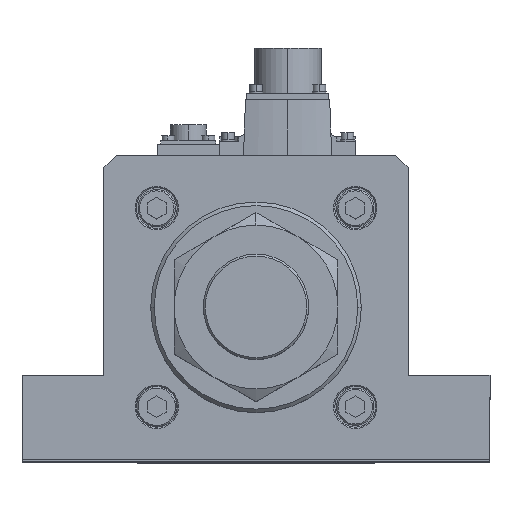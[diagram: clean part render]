
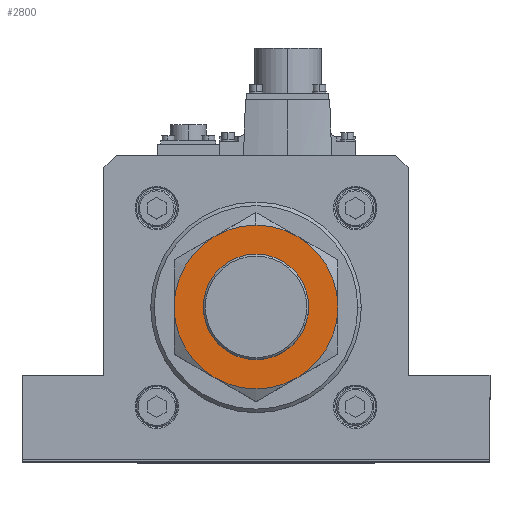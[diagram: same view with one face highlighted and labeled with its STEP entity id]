
A CAD part, top view. The second image highlights one B-rep face of the part: STEP entity #2800.
In plain terms, the highlighted planar face has unit normal (0, 0, 1).
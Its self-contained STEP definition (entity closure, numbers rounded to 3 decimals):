
#321 = VERTEX_POINT ( 'NONE', #17320 ) ;
#1012 = ORIENTED_EDGE ( 'NONE', *, *, #20855, .F. ) ;
#2121 = DIRECTION ( 'NONE',  ( 0., 0., -1. ) ) ;
#2503 = DIRECTION ( 'NONE',  ( 0., 0., -1. ) ) ;
#2727 = EDGE_CURVE ( 'NONE', #321, #20200, #19504, .T. ) ;
#2800 = ADVANCED_FACE ( 'NONE', ( #32931, #9937 ), #38912, .T. ) ;
#3550 = EDGE_LOOP ( 'NONE', ( #5658, #19724, #17506, #1012, #15484, #10313, #27987 ) ) ;
#4403 = ORIENTED_EDGE ( 'NONE', *, *, #30384, .F. ) ;
#4895 = AXIS2_PLACEMENT_3D ( 'NONE', #27868, #9928, #18760 ) ;
#5534 = CARTESIAN_POINT ( 'NONE',  ( 0., 0., 27. ) ) ;
#5592 = DIRECTION ( 'NONE',  ( 0., 1., 0. ) ) ;
#5658 = ORIENTED_EDGE ( 'NONE', *, *, #14251, .F. ) ;
#7022 = CIRCLE ( 'NONE', #10106, 35. ) ;
#8114 = DIRECTION ( 'NONE',  ( 0., 1., 0. ) ) ;
#8173 = DIRECTION ( 'NONE',  ( 0., 0., 1. ) ) ;
#8366 = AXIS2_PLACEMENT_3D ( 'NONE', #24303, #33643, #33499 ) ;
#8450 = CARTESIAN_POINT ( 'NONE',  ( 0., 0., 27. ) ) ;
#8452 = VERTEX_POINT ( 'NONE', #30140 ) ;
#8599 = CARTESIAN_POINT ( 'NONE',  ( 0., 0., 27. ) ) ;
#9705 = CIRCLE ( 'NONE', #4895, 22.5 ) ;
#9928 = DIRECTION ( 'NONE',  ( 0., 0., 1. ) ) ;
#9937 = FACE_BOUND ( 'NONE', #21361, .T. ) ;
#10106 = AXIS2_PLACEMENT_3D ( 'NONE', #5534, #26889, #23959 ) ;
#10110 = CIRCLE ( 'NONE', #34695, 35. ) ;
#10313 = ORIENTED_EDGE ( 'NONE', *, *, #2727, .F. ) ;
#10493 = CIRCLE ( 'NONE', #8366, 35. ) ;
#10895 = DIRECTION ( 'NONE',  ( 1., 0., 0. ) ) ;
#10916 = AXIS2_PLACEMENT_3D ( 'NONE', #11298, #32427, #10895 ) ;
#11298 = CARTESIAN_POINT ( 'NONE',  ( 0., 0., 27. ) ) ;
#11551 = CARTESIAN_POINT ( 'NONE',  ( 0., 35., 27. ) ) ;
#12252 = CARTESIAN_POINT ( 'NONE',  ( -22.5, 0., 27. ) ) ;
#13401 = CIRCLE ( 'NONE', #19853, 35. ) ;
#13704 = VERTEX_POINT ( 'NONE', #17450 ) ;
#13718 = EDGE_CURVE ( 'NONE', #20200, #26825, #10493, .T. ) ;
#14251 = EDGE_CURVE ( 'NONE', #28830, #38419, #13401, .T. ) ;
#15008 = CARTESIAN_POINT ( 'NONE',  ( -35., 0., 27. ) ) ;
#15484 = ORIENTED_EDGE ( 'NONE', *, *, #13718, .F. ) ;
#15550 = AXIS2_PLACEMENT_3D ( 'NONE', #26578, #2121, #8114 ) ;
#17320 = CARTESIAN_POINT ( 'NONE',  ( -17.5, -30.311, 27. ) ) ;
#17450 = CARTESIAN_POINT ( 'NONE',  ( 17.5, 30.311, 27. ) ) ;
#17506 = ORIENTED_EDGE ( 'NONE', *, *, #39403, .F. ) ;
#17650 = DIRECTION ( 'NONE',  ( 0., 0., -1. ) ) ;
#17805 = DIRECTION ( 'NONE',  ( 0., 0., -1. ) ) ;
#18760 = DIRECTION ( 'NONE',  ( 1., 0., 0. ) ) ;
#19383 = CARTESIAN_POINT ( 'NONE',  ( 35., 0., 27. ) ) ;
#19504 = CIRCLE ( 'NONE', #25140, 35. ) ;
#19724 = ORIENTED_EDGE ( 'NONE', *, *, #22375, .F. ) ;
#19853 = AXIS2_PLACEMENT_3D ( 'NONE', #20626, #17650, #20763 ) ;
#19903 = ORIENTED_EDGE ( 'NONE', *, *, #39580, .F. ) ;
#20042 = DIRECTION ( 'NONE',  ( 0., 1., 0. ) ) ;
#20200 = VERTEX_POINT ( 'NONE', #15008 ) ;
#20286 = VERTEX_POINT ( 'NONE', #11551 ) ;
#20626 = CARTESIAN_POINT ( 'NONE',  ( 0., 0., 27. ) ) ;
#20763 = DIRECTION ( 'NONE',  ( 0., 1., 0. ) ) ;
#20799 = CARTESIAN_POINT ( 'NONE',  ( 0., 0., 27. ) ) ;
#20855 = EDGE_CURVE ( 'NONE', #26825, #20286, #7022, .T. ) ;
#21361 = EDGE_LOOP ( 'NONE', ( #19903, #4403 ) ) ;
#22273 = CIRCLE ( 'NONE', #15550, 35. ) ;
#22375 = EDGE_CURVE ( 'NONE', #13704, #28830, #22273, .T. ) ;
#23353 = CARTESIAN_POINT ( 'NONE',  ( -17.5, 30.311, 27. ) ) ;
#23700 = CARTESIAN_POINT ( 'NONE',  ( 0., 0., 27. ) ) ;
#23866 = AXIS2_PLACEMENT_3D ( 'NONE', #23700, #8173, #26760 ) ;
#23959 = DIRECTION ( 'NONE',  ( 0., 1., 0. ) ) ;
#24303 = CARTESIAN_POINT ( 'NONE',  ( 0., 0., 27. ) ) ;
#25140 = AXIS2_PLACEMENT_3D ( 'NONE', #8450, #32505, #20042 ) ;
#26578 = CARTESIAN_POINT ( 'NONE',  ( 0., 0., 27. ) ) ;
#26760 = DIRECTION ( 'NONE',  ( 1., 0., 0. ) ) ;
#26815 = CIRCLE ( 'NONE', #10916, 22.5 ) ;
#26825 = VERTEX_POINT ( 'NONE', #23353 ) ;
#26889 = DIRECTION ( 'NONE',  ( 0., 0., -1. ) ) ;
#27868 = CARTESIAN_POINT ( 'NONE',  ( 0., 0., 27. ) ) ;
#27935 = CIRCLE ( 'NONE', #35631, 35. ) ;
#27987 = ORIENTED_EDGE ( 'NONE', *, *, #36595, .F. ) ;
#28830 = VERTEX_POINT ( 'NONE', #19383 ) ;
#29987 = DIRECTION ( 'NONE',  ( 0., 1., 0. ) ) ;
#30140 = CARTESIAN_POINT ( 'NONE',  ( 22.5, 0., 27. ) ) ;
#30384 = EDGE_CURVE ( 'NONE', #8452, #31355, #26815, .T. ) ;
#31355 = VERTEX_POINT ( 'NONE', #12252 ) ;
#32427 = DIRECTION ( 'NONE',  ( 0., 0., 1. ) ) ;
#32505 = DIRECTION ( 'NONE',  ( 0., 0., -1. ) ) ;
#32931 = FACE_OUTER_BOUND ( 'NONE', #3550, .T. ) ;
#33499 = DIRECTION ( 'NONE',  ( 0., 1., 0. ) ) ;
#33643 = DIRECTION ( 'NONE',  ( 0., 0., -1. ) ) ;
#34695 = AXIS2_PLACEMENT_3D ( 'NONE', #8599, #17805, #29987 ) ;
#35631 = AXIS2_PLACEMENT_3D ( 'NONE', #20799, #2503, #5592 ) ;
#36595 = EDGE_CURVE ( 'NONE', #38419, #321, #10110, .T. ) ;
#38419 = VERTEX_POINT ( 'NONE', #38705 ) ;
#38705 = CARTESIAN_POINT ( 'NONE',  ( 17.5, -30.311, 27. ) ) ;
#38912 = PLANE ( 'NONE',  #23866 ) ;
#39403 = EDGE_CURVE ( 'NONE', #20286, #13704, #27935, .T. ) ;
#39580 = EDGE_CURVE ( 'NONE', #31355, #8452, #9705, .T. ) ;
